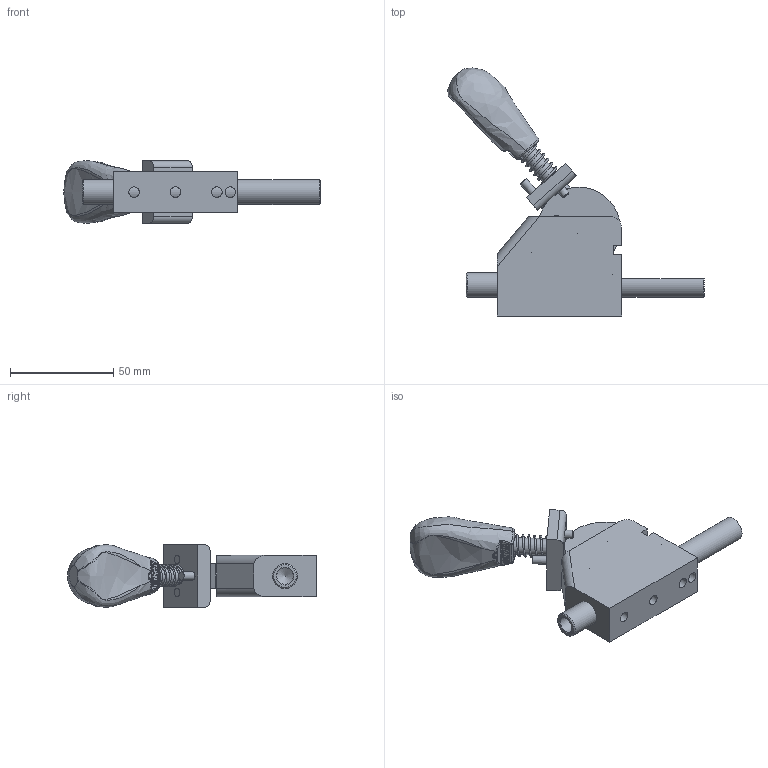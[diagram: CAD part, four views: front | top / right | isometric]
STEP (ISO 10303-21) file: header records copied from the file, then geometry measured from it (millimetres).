
FILE_DESCRIPTION(/* description */ (''),/* implementation_level */ '2;1');
FILE_NAME(/* name */ '\\192.168.1.150\pc03\Inventor\デュアルメカニズムクランプ最終\2017.10月　最新型\YSP-40ST-L\YSP-40ST-L-UNCLAMP.stp',/* time_stamp */ '2024-05-14T16:36:01+09:00',/* author */ ('Backup'),/* organization */ (''),/* preprocessor_version */ 'ST-DEVELOPER v17',/* originating_system */ 'Autodesk Inventor 2019',/* authorisation */ '');
FILE_SCHEMA (('AUTOMOTIVE_DESIGN { 1 0 10303 214 3 1 1 }'));
Length unit declared in the file: millimetre
Products named in the file (10): YSP-40ST-CLAMP; YO-M35S ボディ; 50-30_VER4_PG2__12; Φ8×40ｼｬﾌﾄ; カム; YO－M３５S スライドバー; φ4×25; ロック機構; φ4×25_1; スプリング
Assembly tree (10 placements, depth 2):
  YSP-40ST-CLAMP
    YO-M35S ボディ
    50-30_VER4_PG2__12
    Φ8×40ｼｬﾌﾄ
    カム
    YO－M３５S スライドバー
    φ4×25  x2
    ロック機構
    φ4×25_1
    スプリング
Bounding box: 124 x 119.9 x 30.18 mm (x, y, z)
Volume: 78724.8 mm3; surface area: 33976.1 mm2
Topology: 10 solids, 10 shells, 229 faces, 623 edges, 412 vertices
Faces by surface type: plane 110, cylinder 82, bspline 25, cone 8, sphere 4
Full cylindrical faces by diameter (mm): 0.01 x11, 1.306 x1, 3.2 x2, 4 x7, 4.1 x1, 4.3 x3, 5.1 x4, 6 x1, 8 x3, 8.1 x1, 12 x2
Entity records: 18854 total; most frequent: CARTESIAN_POINT 12788, ORIENTED_EDGE 1228, DIRECTION 1141, EDGE_CURVE 614, VERTEX_POINT 409, AXIS2_PLACEMENT_3D 409, LINE 323, VECTOR 323
